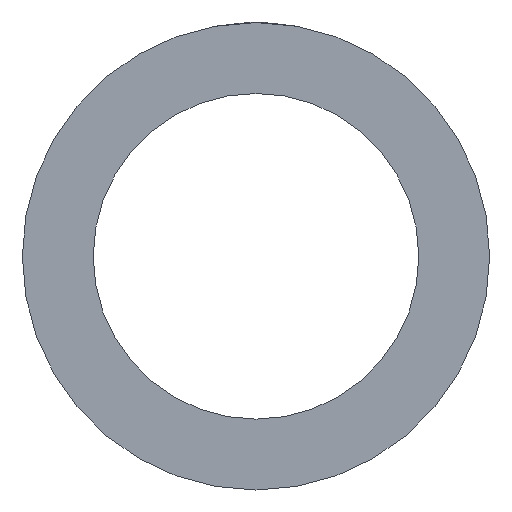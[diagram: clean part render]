
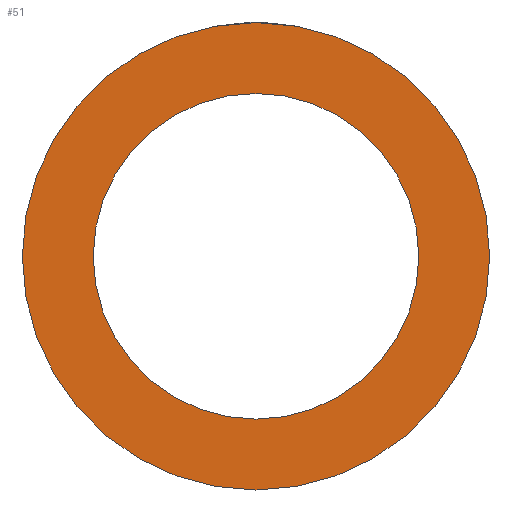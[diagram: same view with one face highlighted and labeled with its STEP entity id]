
A CAD part, left-side view. The second image highlights one B-rep face of the part: STEP entity #51.
In plain terms, the highlighted planar face has unit normal (-1, 0, 0).
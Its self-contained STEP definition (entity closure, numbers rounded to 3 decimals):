
#25 = EDGE_LOOP ( 'NONE', ( #560, #105 ) ) ;
#51 = ADVANCED_FACE ( 'NONE', ( #2581, #3135 ), #1955, .F. ) ;
#56 = DIRECTION ( 'NONE',  ( -1., 0., 0. ) ) ;
#90 = EDGE_CURVE ( 'NONE', #1189, #1139, #3100, .T. ) ;
#105 = ORIENTED_EDGE ( 'NONE', *, *, #2410, .T. ) ;
#164 = CARTESIAN_POINT ( 'NONE',  ( 0., 0., 0. ) ) ;
#358 = DIRECTION ( 'NONE',  ( 0., 0., 1. ) ) ;
#363 = DIRECTION ( 'NONE',  ( -1., 0., 0. ) ) ;
#376 = CARTESIAN_POINT ( 'NONE',  ( 0., 0., 0. ) ) ;
#519 = DIRECTION ( 'NONE',  ( 0., 0., 1. ) ) ;
#528 = DIRECTION ( 'NONE',  ( -1., 0., 0. ) ) ;
#529 = CARTESIAN_POINT ( 'NONE',  ( 0., 0., 0. ) ) ;
#560 = ORIENTED_EDGE ( 'NONE', *, *, #1943, .T. ) ;
#578 = AXIS2_PLACEMENT_3D ( 'NONE', #164, #56, #3146 ) ;
#660 = AXIS2_PLACEMENT_3D ( 'NONE', #1591, #1671, #1564 ) ;
#807 = CARTESIAN_POINT ( 'NONE',  ( 0., 0., 128.9 ) ) ;
#1139 = VERTEX_POINT ( 'NONE', #1156 ) ;
#1156 = CARTESIAN_POINT ( 'NONE',  ( 0., 0., -128.9 ) ) ;
#1189 = VERTEX_POINT ( 'NONE', #807 ) ;
#1325 = EDGE_LOOP ( 'NONE', ( #2534, #3079 ) ) ;
#1564 = DIRECTION ( 'NONE',  ( 0., 0., -1. ) ) ;
#1591 = CARTESIAN_POINT ( 'NONE',  ( 0., 128.9, 0. ) ) ;
#1671 = DIRECTION ( 'NONE',  ( 1., 0., 0. ) ) ;
#1674 = CARTESIAN_POINT ( 'NONE',  ( 0., 0., -185. ) ) ;
#1895 = VERTEX_POINT ( 'NONE', #2062 ) ;
#1937 = DIRECTION ( 'NONE',  ( 0., 0., 1. ) ) ;
#1943 = EDGE_CURVE ( 'NONE', #1895, #2081, #2707, .T. ) ;
#1945 = DIRECTION ( 'NONE',  ( -1., 0., 0. ) ) ;
#1949 = CARTESIAN_POINT ( 'NONE',  ( 0., 0., 0. ) ) ;
#1955 = PLANE ( 'NONE',  #660 ) ;
#2014 = CIRCLE ( 'NONE', #2943, 128.9 ) ;
#2062 = CARTESIAN_POINT ( 'NONE',  ( 0., 0., 185. ) ) ;
#2081 = VERTEX_POINT ( 'NONE', #1674 ) ;
#2092 = CIRCLE ( 'NONE', #2985, 185. ) ;
#2410 = EDGE_CURVE ( 'NONE', #2081, #1895, #2092, .T. ) ;
#2496 = EDGE_CURVE ( 'NONE', #1139, #1189, #2014, .T. ) ;
#2534 = ORIENTED_EDGE ( 'NONE', *, *, #90, .F. ) ;
#2581 = FACE_BOUND ( 'NONE', #1325, .T. ) ;
#2707 = CIRCLE ( 'NONE', #2790, 185. ) ;
#2790 = AXIS2_PLACEMENT_3D ( 'NONE', #1949, #1945, #1937 ) ;
#2943 = AXIS2_PLACEMENT_3D ( 'NONE', #376, #363, #358 ) ;
#2985 = AXIS2_PLACEMENT_3D ( 'NONE', #529, #528, #519 ) ;
#3079 = ORIENTED_EDGE ( 'NONE', *, *, #2496, .F. ) ;
#3100 = CIRCLE ( 'NONE', #578, 128.9 ) ;
#3135 = FACE_OUTER_BOUND ( 'NONE', #25, .T. ) ;
#3146 = DIRECTION ( 'NONE',  ( 0., 0., 1. ) ) ;
